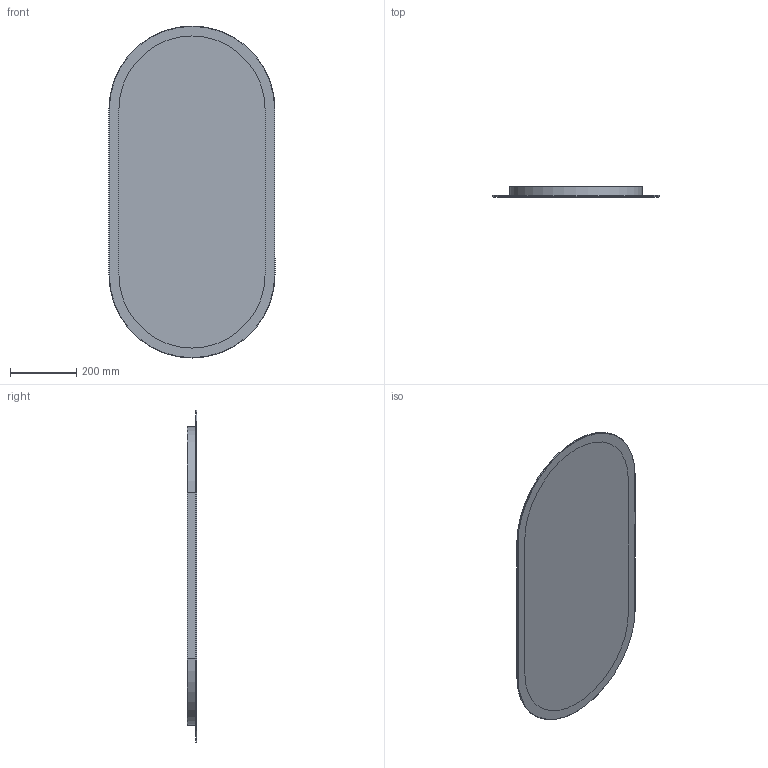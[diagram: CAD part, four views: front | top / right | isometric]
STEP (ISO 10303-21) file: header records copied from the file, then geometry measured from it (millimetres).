
FILE_DESCRIPTION(/* description */ ('Unknown'),/* implementation_level */ '2;1');
FILE_NAME(/* name */ 'Nova',/* time_stamp */ '2026-04-08T14:16:13+02:00',/* author */ ('Mariusz Kirko'),/* organization */ ('Kraft'),/* preprocessor_version */ 'ST-DEVELOPER v19.4',/* originating_system */ 'Solid Edge',/* authorisation */ 'Unknown');
FILE_SCHEMA (('AUTOMOTIVE_DESIGN {1 0 10303 214 3 1 1}'));
Length unit declared in the file: millimetre
Products named in the file (5): Z這瞠nie; Piaskowanie; Lustro; Ramka HIPS; 300x26
Assembly tree (4 placements, depth 2):
  Z這瞠nie
    Piaskowanie
    Lustro
    Ramka HIPS
    300x26
Bounding box: 500 x 30 x 1000 mm (x, y, z)
Volume: 1928948.3 mm3; surface area: 1102914.1 mm2
Topology: 4 solids, 4 shells, 88 faces, 236 edges, 156 vertices
Faces by surface type: plane 50, cylinder 36, torus 2
Entity records: 2945 total; most frequent: DIRECTION 496, CARTESIAN_POINT 485, ORIENTED_EDGE 472, EDGE_CURVE 236, AXIS2_PLACEMENT_3D 167, LINE 162, VECTOR 162, VERTEX_POINT 156
